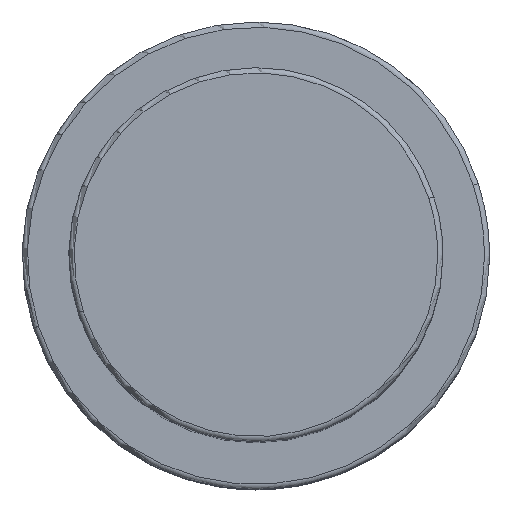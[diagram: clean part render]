
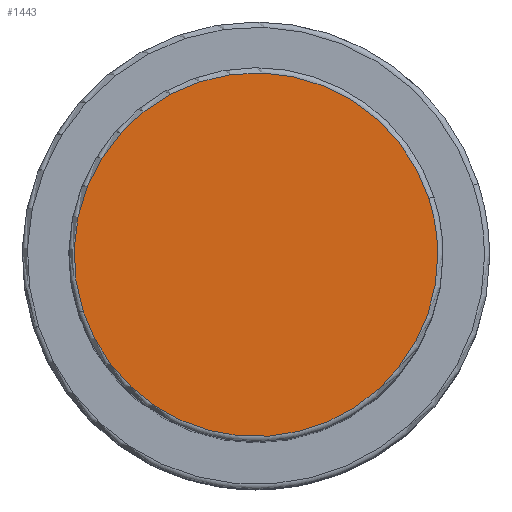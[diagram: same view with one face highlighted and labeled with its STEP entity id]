
A CAD part, top view. The second image highlights one B-rep face of the part: STEP entity #1443.
In plain terms, the highlighted planar face has unit normal (0, 0, 1).
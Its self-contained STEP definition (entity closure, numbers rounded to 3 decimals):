
#1409=CARTESIAN_POINT('',(17.5,0.0,83.0));
#1410=VERTEX_POINT('',#1409);
#1411=CARTESIAN_POINT('',(16.643,5.408,83.0));
#1412=VERTEX_POINT('',#1411);
#1413=CARTESIAN_POINT('',(0.0,0.0,83.0));
#1414=DIRECTION('',(0.0,0.0,1.0));
#1415=DIRECTION('',(1.0,0.0,0.0));
#1416=AXIS2_PLACEMENT_3D('',#1413,#1414,#1415);
#1417=CIRCLE('',#1416,17.5);
#1418=EDGE_CURVE('no 1698',#1410,#1412,#1417,.T.);
#1419=ORIENTED_EDGE('',*,*,#1418,.T.);
#1420=CARTESIAN_POINT('',(-16.643,-5.408,83.0));
#1421=VERTEX_POINT('',#1420);
#1422=CARTESIAN_POINT('',(0.0,0.0,83.0));
#1423=DIRECTION('',(0.0,0.0,1.0));
#1424=DIRECTION('',(1.0,0.0,0.0));
#1425=AXIS2_PLACEMENT_3D('',#1422,#1423,#1424);
#1426=CIRCLE('',#1425,17.5);
#1427=EDGE_CURVE('no 1704',#1412,#1421,#1426,.T.);
#1428=ORIENTED_EDGE('',*,*,#1427,.T.);
#1429=CARTESIAN_POINT('',(0.0,0.0,83.0));
#1430=DIRECTION('',(0.0,0.0,1.0));
#1431=DIRECTION('',(1.0,0.0,0.0));
#1432=AXIS2_PLACEMENT_3D('',#1429,#1430,#1431);
#1433=CIRCLE('',#1432,17.5);
#1434=EDGE_CURVE('no 1708',#1421,#1410,#1433,.T.);
#1435=ORIENTED_EDGE('',*,*,#1434,.T.);
#1436=EDGE_LOOP('',(#1419,#1428,#1435));
#1437=FACE_OUTER_BOUND('',#1436,.T.);
#1438=CARTESIAN_POINT('',(0.0,0.0,83.0));
#1439=DIRECTION('',(0.0,0.0,1.0));
#1440=DIRECTION('',(1.0,0.0,0.0));
#1441=AXIS2_PLACEMENT_3D('',#1438,#1439,#1440);
#1442=PLANE('',#1441);
#1443=ADVANCED_FACE('no 1689',(#1437),#1442,.T.);
